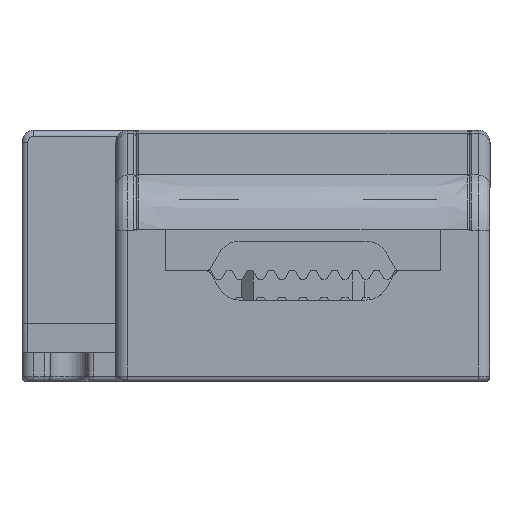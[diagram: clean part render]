
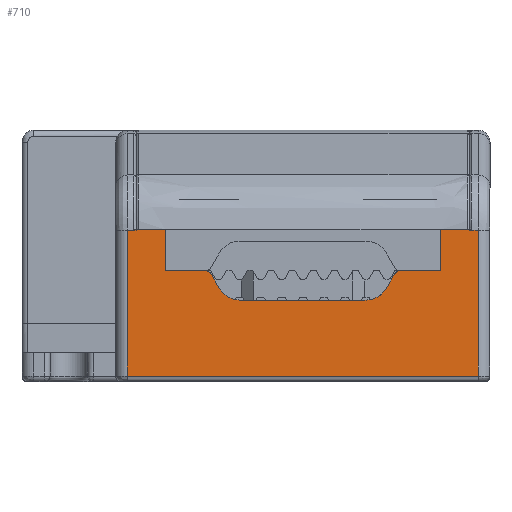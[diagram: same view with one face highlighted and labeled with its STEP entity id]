
A CAD part, left-side view. The second image highlights one B-rep face of the part: STEP entity #710.
In plain terms, the highlighted planar face has unit normal (-1, 0, 0).
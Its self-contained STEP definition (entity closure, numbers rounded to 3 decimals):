
#710=ADVANCED_FACE('',(#1934),#20456,.T.);
#1934=FACE_OUTER_BOUND('',#3158,.T.);
#3158=EDGE_LOOP('',(#7452,#7453,#7454,#7455,#7456,#7457,#7458,#7459,#7460,
#7461,#7462,#7463,#7464,#7465,#7466,#7467,#7468,#7469,#7470,#7471));
#7452=ORIENTED_EDGE('',*,*,#12420,.T.);
#7453=ORIENTED_EDGE('',*,*,#12432,.T.);
#7454=ORIENTED_EDGE('',*,*,#12431,.T.);
#7455=ORIENTED_EDGE('',*,*,#12430,.T.);
#7456=ORIENTED_EDGE('',*,*,#12873,.T.);
#7457=ORIENTED_EDGE('',*,*,#12847,.T.);
#7458=ORIENTED_EDGE('',*,*,#12871,.T.);
#7459=ORIENTED_EDGE('',*,*,#12429,.T.);
#7460=ORIENTED_EDGE('',*,*,#12867,.T.);
#7461=ORIENTED_EDGE('',*,*,#12861,.T.);
#7462=ORIENTED_EDGE('',*,*,#12870,.T.);
#7463=ORIENTED_EDGE('',*,*,#12428,.T.);
#7464=ORIENTED_EDGE('',*,*,#12427,.T.);
#7465=ORIENTED_EDGE('',*,*,#12433,.T.);
#7466=ORIENTED_EDGE('',*,*,#12426,.T.);
#7467=ORIENTED_EDGE('',*,*,#12425,.T.);
#7468=ORIENTED_EDGE('',*,*,#12424,.T.);
#7469=ORIENTED_EDGE('',*,*,#12423,.T.);
#7470=ORIENTED_EDGE('',*,*,#12422,.T.);
#7471=ORIENTED_EDGE('',*,*,#12421,.T.);
#12420=EDGE_CURVE('',#18589,#18590,#16243,.T.);
#12421=EDGE_CURVE('',#18591,#18589,#16244,.T.);
#12422=EDGE_CURVE('',#18592,#18591,#16245,.T.);
#12423=EDGE_CURVE('',#18593,#18592,#16246,.T.);
#12424=EDGE_CURVE('',#18594,#18593,#16247,.T.);
#12425=EDGE_CURVE('',#18595,#18594,#16248,.T.);
#12426=EDGE_CURVE('',#18596,#18595,#16249,.T.);
#12427=EDGE_CURVE('',#18598,#18597,#16250,.T.);
#12428=EDGE_CURVE('',#18599,#18598,#16251,.T.);
#12429=EDGE_CURVE('',#18603,#18602,#16252,.T.);
#12430=EDGE_CURVE('',#18607,#18606,#16253,.T.);
#12431=EDGE_CURVE('',#18608,#18607,#16254,.T.);
#12432=EDGE_CURVE('',#18590,#18608,#16255,.T.);
#12433=EDGE_CURVE('',#18597,#18596,#16256,.T.);
#12847=EDGE_CURVE('',#18605,#18604,#16554,.T.);
#12861=EDGE_CURVE('',#18601,#18600,#16564,.T.);
#12867=EDGE_CURVE('',#18602,#18601,#14560,.T.);
#12870=EDGE_CURVE('',#18600,#18599,#14563,.T.);
#12871=EDGE_CURVE('',#18604,#18603,#14564,.T.);
#12873=EDGE_CURVE('',#18606,#18605,#14566,.T.);
#14560=(
BOUNDED_CURVE()
B_SPLINE_CURVE(2,(#40467,#40468,#40469),.UNSPECIFIED.,.F.,.F.)
B_SPLINE_CURVE_WITH_KNOTS((3,3),(0.,2.094),.UNSPECIFIED.)
CURVE()
GEOMETRIC_REPRESENTATION_ITEM()
RATIONAL_B_SPLINE_CURVE((1.,0.866,1.))
REPRESENTATION_ITEM('')
);
#14563=(
BOUNDED_CURVE()
B_SPLINE_CURVE(2,(#40476,#40477,#40478),.UNSPECIFIED.,.F.,.F.)
B_SPLINE_CURVE_WITH_KNOTS((3,3),(0.,0.524),.UNSPECIFIED.)
CURVE()
GEOMETRIC_REPRESENTATION_ITEM()
RATIONAL_B_SPLINE_CURVE((1.,0.866,1.))
REPRESENTATION_ITEM('')
);
#14564=(
BOUNDED_CURVE()
B_SPLINE_CURVE(2,(#40479,#40480,#40481),.UNSPECIFIED.,.F.,.F.)
B_SPLINE_CURVE_WITH_KNOTS((3,3),(0.,2.094),.UNSPECIFIED.)
CURVE()
GEOMETRIC_REPRESENTATION_ITEM()
RATIONAL_B_SPLINE_CURVE((1.,0.866,1.))
REPRESENTATION_ITEM('')
);
#14566=(
BOUNDED_CURVE()
B_SPLINE_CURVE(2,(#40485,#40486,#40487),.UNSPECIFIED.,.F.,.F.)
B_SPLINE_CURVE_WITH_KNOTS((3,3),(0.,0.524),.UNSPECIFIED.)
CURVE()
GEOMETRIC_REPRESENTATION_ITEM()
RATIONAL_B_SPLINE_CURVE((1.,0.866,1.))
REPRESENTATION_ITEM('')
);
#16243=B_SPLINE_CURVE_WITH_KNOTS('',3,(#39435,#39436,#39437,#39438,#39439),
 .UNSPECIFIED.,.F.,.F.,(4,1,4),(-0.024,-0.012,
0.),.UNSPECIFIED.);
#16244=B_SPLINE_CURVE_WITH_KNOTS('',1,(#39440,#39441),.UNSPECIFIED.,.F.,
 .F.,(2,2),(-0.75,0.),.UNSPECIFIED.);
#16245=B_SPLINE_CURVE_WITH_KNOTS('',1,(#39442,#39443),.UNSPECIFIED.,.F.,
 .F.,(2,2),(-12.476,0.),.UNSPECIFIED.);
#16246=B_SPLINE_CURVE_WITH_KNOTS('',1,(#39444,#39445),.UNSPECIFIED.,.F.,
 .F.,(2,2),(-30.,0.),.UNSPECIFIED.);
#16247=B_SPLINE_CURVE_WITH_KNOTS('',1,(#39446,#39447),.UNSPECIFIED.,.F.,
 .F.,(2,2),(-12.476,0.),.UNSPECIFIED.);
#16248=B_SPLINE_CURVE_WITH_KNOTS('',1,(#39448,#39449),.UNSPECIFIED.,.F.,
 .F.,(2,2),(-0.75,0.),.UNSPECIFIED.);
#16249=B_SPLINE_CURVE_WITH_KNOTS('',3,(#39450,#39451,#39452,#39453,#39454),
 .UNSPECIFIED.,.F.,.F.,(4,1,4),(-0.024,-0.012,
0.),.UNSPECIFIED.);
#16250=B_SPLINE_CURVE_WITH_KNOTS('',1,(#39455,#39456),.UNSPECIFIED.,.F.,
 .F.,(2,2),(-3.5,0.),.UNSPECIFIED.);
#16251=B_SPLINE_CURVE_WITH_KNOTS('',1,(#39457,#39458),.UNSPECIFIED.,.F.,
 .F.,(2,2),(-3.461,0.),.UNSPECIFIED.);
#16252=B_SPLINE_CURVE_WITH_KNOTS('',1,(#39459,#39460),.UNSPECIFIED.,.F.,
 .F.,(2,2),(-10.804,0.),.UNSPECIFIED.);
#16253=B_SPLINE_CURVE_WITH_KNOTS('',1,(#39461,#39462),.UNSPECIFIED.,.F.,
 .F.,(2,2),(-3.461,0.),.UNSPECIFIED.);
#16254=B_SPLINE_CURVE_WITH_KNOTS('',1,(#39463,#39464),.UNSPECIFIED.,.F.,
 .F.,(2,2),(-3.5,0.),.UNSPECIFIED.);
#16255=B_SPLINE_CURVE_WITH_KNOTS('',1,(#39465,#39466),.UNSPECIFIED.,.F.,
 .F.,(2,2),(0.,2.5),.UNSPECIFIED.);
#16256=B_SPLINE_CURVE_WITH_KNOTS('',1,(#39467,#39468),.UNSPECIFIED.,.F.,
 .F.,(2,2),(0.,2.5),.UNSPECIFIED.);
#16554=B_SPLINE_CURVE_WITH_KNOTS('',1,(#40421,#40422),.UNSPECIFIED.,.F.,
 .F.,(2,2),(0.,1.443),.UNSPECIFIED.);
#16564=B_SPLINE_CURVE_WITH_KNOTS('',1,(#40453,#40454),.UNSPECIFIED.,.F.,
 .F.,(2,2),(0.,1.443),.UNSPECIFIED.);
#18589=VERTEX_POINT('',#39043);
#18590=VERTEX_POINT('',#39044);
#18591=VERTEX_POINT('',#39045);
#18592=VERTEX_POINT('',#39046);
#18593=VERTEX_POINT('',#39047);
#18594=VERTEX_POINT('',#39048);
#18595=VERTEX_POINT('',#39049);
#18596=VERTEX_POINT('',#39050);
#18597=VERTEX_POINT('',#39051);
#18598=VERTEX_POINT('',#39052);
#18599=VERTEX_POINT('',#39053);
#18600=VERTEX_POINT('',#39054);
#18601=VERTEX_POINT('',#39055);
#18602=VERTEX_POINT('',#39056);
#18603=VERTEX_POINT('',#39057);
#18604=VERTEX_POINT('',#39058);
#18605=VERTEX_POINT('',#39059);
#18606=VERTEX_POINT('',#39060);
#18607=VERTEX_POINT('',#39061);
#18608=VERTEX_POINT('',#39062);
#20456=PLANE('',#21171);
#21171=AXIS2_PLACEMENT_3D('',#36940,#21869,$);
#21869=DIRECTION('',(-1.,0.,0.));
#36940=CARTESIAN_POINT('',(-65.5,24.906,-0.756));
#39043=CARTESIAN_POINT('',(-65.5,-7.5,13.126));
#39044=CARTESIAN_POINT('',(-65.5,-7.5,13.15));
#39045=CARTESIAN_POINT('',(-65.5,-8.25,13.126));
#39046=CARTESIAN_POINT('',(-65.5,-8.25,0.65));
#39047=CARTESIAN_POINT('',(-65.5,21.75,0.65));
#39048=CARTESIAN_POINT('',(-65.5,21.75,13.126));
#39049=CARTESIAN_POINT('',(-65.5,21.,13.126));
#39050=CARTESIAN_POINT('',(-65.5,21.,13.15));
#39051=CARTESIAN_POINT('',(-65.5,18.5,13.15));
#39052=CARTESIAN_POINT('',(-65.5,18.5,9.65));
#39053=CARTESIAN_POINT('',(-65.5,15.039,9.65));
#39054=CARTESIAN_POINT('',(-65.5,14.606,9.4));
#39055=CARTESIAN_POINT('',(-65.5,13.884,8.15));
#39056=CARTESIAN_POINT('',(-65.5,12.152,7.15));
#39057=CARTESIAN_POINT('',(-65.5,1.348,7.15));
#39058=CARTESIAN_POINT('',(-65.5,-0.384,8.15));
#39059=CARTESIAN_POINT('',(-65.5,-1.106,9.4));
#39060=CARTESIAN_POINT('',(-65.5,-1.539,9.65));
#39061=CARTESIAN_POINT('',(-65.5,-5.,9.65));
#39062=CARTESIAN_POINT('',(-65.5,-5.,13.15));
#39435=CARTESIAN_POINT('',(-65.5,-7.5,13.126));
#39436=CARTESIAN_POINT('',(-65.5,-7.5,13.13));
#39437=CARTESIAN_POINT('',(-65.5,-7.5,13.138));
#39438=CARTESIAN_POINT('',(-65.5,-7.5,13.146));
#39439=CARTESIAN_POINT('',(-65.5,-7.5,13.15));
#39440=CARTESIAN_POINT('',(-65.5,-8.25,13.126));
#39441=CARTESIAN_POINT('',(-65.5,-7.5,13.126));
#39442=CARTESIAN_POINT('',(-65.5,-8.25,0.65));
#39443=CARTESIAN_POINT('',(-65.5,-8.25,13.126));
#39444=CARTESIAN_POINT('',(-65.5,21.75,0.65));
#39445=CARTESIAN_POINT('',(-65.5,-8.25,0.65));
#39446=CARTESIAN_POINT('',(-65.5,21.75,13.126));
#39447=CARTESIAN_POINT('',(-65.5,21.75,0.65));
#39448=CARTESIAN_POINT('',(-65.5,21.,13.126));
#39449=CARTESIAN_POINT('',(-65.5,21.75,13.126));
#39450=CARTESIAN_POINT('',(-65.5,21.,13.15));
#39451=CARTESIAN_POINT('',(-65.5,21.,13.146));
#39452=CARTESIAN_POINT('',(-65.5,21.,13.138));
#39453=CARTESIAN_POINT('',(-65.5,21.,13.13));
#39454=CARTESIAN_POINT('',(-65.5,21.,13.126));
#39455=CARTESIAN_POINT('',(-65.5,18.5,9.65));
#39456=CARTESIAN_POINT('',(-65.5,18.5,13.15));
#39457=CARTESIAN_POINT('',(-65.5,15.039,9.65));
#39458=CARTESIAN_POINT('',(-65.5,18.5,9.65));
#39459=CARTESIAN_POINT('',(-65.5,1.348,7.15));
#39460=CARTESIAN_POINT('',(-65.5,12.152,7.15));
#39461=CARTESIAN_POINT('',(-65.5,-5.,9.65));
#39462=CARTESIAN_POINT('',(-65.5,-1.539,9.65));
#39463=CARTESIAN_POINT('',(-65.5,-5.,13.15));
#39464=CARTESIAN_POINT('',(-65.5,-5.,9.65));
#39465=CARTESIAN_POINT('',(-65.5,-7.5,13.15));
#39466=CARTESIAN_POINT('',(-65.5,-5.,13.15));
#39467=CARTESIAN_POINT('',(-65.5,18.5,13.15));
#39468=CARTESIAN_POINT('',(-65.5,21.,13.15));
#40421=CARTESIAN_POINT('',(-65.5,-1.106,9.4));
#40422=CARTESIAN_POINT('',(-65.5,-0.384,8.15));
#40453=CARTESIAN_POINT('',(-65.5,13.884,8.15));
#40454=CARTESIAN_POINT('',(-65.5,14.606,9.4));
#40467=CARTESIAN_POINT('',(-65.5,12.152,7.15));
#40468=CARTESIAN_POINT('',(-65.5,13.307,7.15));
#40469=CARTESIAN_POINT('',(-65.5,13.884,8.15));
#40476=CARTESIAN_POINT('',(-65.5,14.606,9.4));
#40477=CARTESIAN_POINT('',(-65.5,14.75,9.65));
#40478=CARTESIAN_POINT('',(-65.5,15.039,9.65));
#40479=CARTESIAN_POINT('',(-65.5,-0.384,8.15));
#40480=CARTESIAN_POINT('',(-65.5,0.193,7.15));
#40481=CARTESIAN_POINT('',(-65.5,1.348,7.15));
#40485=CARTESIAN_POINT('',(-65.5,-1.539,9.65));
#40486=CARTESIAN_POINT('',(-65.5,-1.25,9.65));
#40487=CARTESIAN_POINT('',(-65.5,-1.106,9.4));
